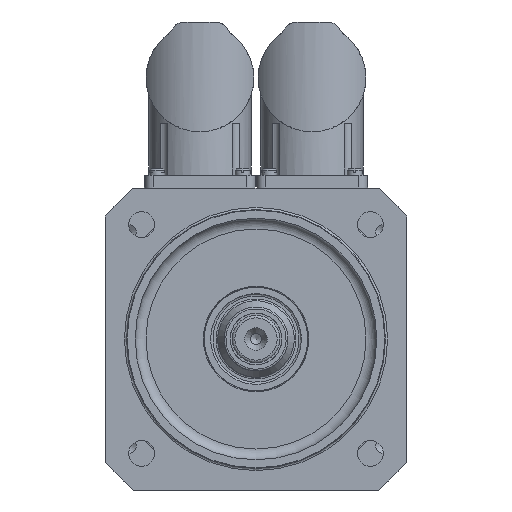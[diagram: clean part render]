
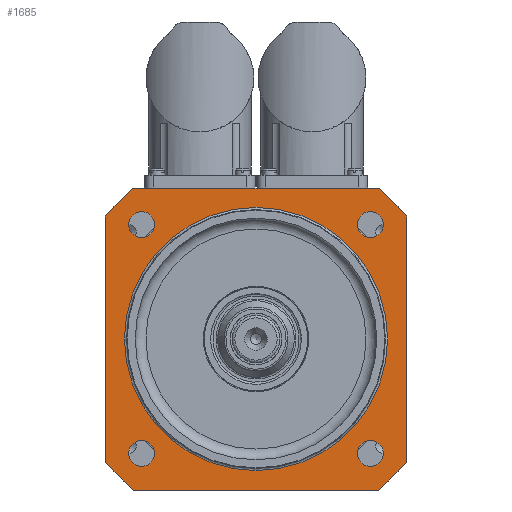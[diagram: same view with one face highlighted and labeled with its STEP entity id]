
A CAD part, front view. The second image highlights one B-rep face of the part: STEP entity #1685.
In plain terms, the highlighted planar face has unit normal (0, -1, 0).
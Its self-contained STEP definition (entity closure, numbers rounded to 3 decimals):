
#1685=ADVANCED_FACE('',(#4181,#2571,#4182,#4183,#4184,#4185),#2424,.T.);
#2424=PLANE('',#12778);
#2571=FACE_OUTER_BOUND('',#4754,.T.);
#3159=LINE('',#18094,#3671);
#3160=LINE('',#18098,#3672);
#3161=LINE('',#18102,#3673);
#3162=LINE('',#18106,#3674);
#3671=VECTOR('',#14417,1.);
#3672=VECTOR('',#14420,1.);
#3673=VECTOR('',#14423,1.);
#3674=VECTOR('',#14426,1.);
#4181=FACE_BOUND('',#4753,.T.);
#4182=FACE_BOUND('',#4755,.T.);
#4183=FACE_BOUND('',#4756,.T.);
#4184=FACE_BOUND('',#4757,.T.);
#4185=FACE_BOUND('',#4758,.T.);
#4753=EDGE_LOOP('',(#5919));
#4754=EDGE_LOOP('',(#5920,#5921,#5922,#5923,#5924,#5925,#5926,#5927));
#4755=EDGE_LOOP('',(#5928));
#4756=EDGE_LOOP('',(#5929));
#4757=EDGE_LOOP('',(#5930));
#4758=EDGE_LOOP('',(#5931));
#5919=ORIENTED_EDGE('',*,*,#10364,.T.);
#5920=ORIENTED_EDGE('',*,*,#10365,.T.);
#5921=ORIENTED_EDGE('',*,*,#10366,.T.);
#5922=ORIENTED_EDGE('',*,*,#10367,.T.);
#5923=ORIENTED_EDGE('',*,*,#10368,.T.);
#5924=ORIENTED_EDGE('',*,*,#10369,.T.);
#5925=ORIENTED_EDGE('',*,*,#10370,.T.);
#5926=ORIENTED_EDGE('',*,*,#10371,.T.);
#5927=ORIENTED_EDGE('',*,*,#10372,.F.);
#5928=ORIENTED_EDGE('',*,*,#10373,.T.);
#5929=ORIENTED_EDGE('',*,*,#10374,.T.);
#5930=ORIENTED_EDGE('',*,*,#10375,.T.);
#5931=ORIENTED_EDGE('',*,*,#10376,.T.);
#9145=VERTEX_POINT('',#18090);
#9146=VERTEX_POINT('',#18092);
#9147=VERTEX_POINT('',#18093);
#9148=VERTEX_POINT('',#18095);
#9149=VERTEX_POINT('',#18097);
#9150=VERTEX_POINT('',#18099);
#9151=VERTEX_POINT('',#18101);
#9152=VERTEX_POINT('',#18103);
#9153=VERTEX_POINT('',#18105);
#9154=VERTEX_POINT('',#18108);
#9155=VERTEX_POINT('',#18110);
#9156=VERTEX_POINT('',#18112);
#9157=VERTEX_POINT('',#18114);
#10364=EDGE_CURVE('',#9145,#9145,#11957,.T.);
#10365=EDGE_CURVE('',#9146,#9147,#11958,.T.);
#10366=EDGE_CURVE('',#9147,#9148,#3159,.T.);
#10367=EDGE_CURVE('',#9148,#9149,#11959,.T.);
#10368=EDGE_CURVE('',#9149,#9150,#3160,.T.);
#10369=EDGE_CURVE('',#9150,#9151,#11960,.T.);
#10370=EDGE_CURVE('',#9151,#9152,#3161,.T.);
#10371=EDGE_CURVE('',#9152,#9153,#11961,.T.);
#10372=EDGE_CURVE('',#9146,#9153,#3162,.T.);
#10373=EDGE_CURVE('',#9154,#9154,#11962,.T.);
#10374=EDGE_CURVE('',#9155,#9155,#11963,.T.);
#10375=EDGE_CURVE('',#9156,#9156,#11964,.T.);
#10376=EDGE_CURVE('',#9157,#9157,#11965,.T.);
#11957=CIRCLE('',#12769,30.5);
#11958=CIRCLE('',#12770,45.);
#11959=CIRCLE('',#12771,45.);
#11960=CIRCLE('',#12772,45.);
#11961=CIRCLE('',#12773,45.);
#11962=CIRCLE('',#12774,3.);
#11963=CIRCLE('',#12775,3.);
#11964=CIRCLE('',#12776,3.);
#11965=CIRCLE('',#12777,3.);
#12769=AXIS2_PLACEMENT_3D('',#18089,#14413,#14414);
#12770=AXIS2_PLACEMENT_3D('',#18091,#14415,#14416);
#12771=AXIS2_PLACEMENT_3D('',#18096,#14418,#14419);
#12772=AXIS2_PLACEMENT_3D('',#18100,#14421,#14422);
#12773=AXIS2_PLACEMENT_3D('',#18104,#14424,#14425);
#12774=AXIS2_PLACEMENT_3D('',#18107,#14427,#14428);
#12775=AXIS2_PLACEMENT_3D('',#18109,#14429,#14430);
#12776=AXIS2_PLACEMENT_3D('',#18111,#14431,#14432);
#12777=AXIS2_PLACEMENT_3D('',#18113,#14433,#14434);
#12778=AXIS2_PLACEMENT_3D('',#18115,#14435,#14436);
#14413=DIRECTION('',(0.,1.,0.));
#14414=DIRECTION('',(0.,0.,-1.));
#14415=DIRECTION('',(0.,-1.,0.));
#14416=DIRECTION('',(0.,0.,1.));
#14417=DIRECTION('',(1.,0.,0.));
#14418=DIRECTION('',(0.,-1.,0.));
#14419=DIRECTION('',(0.,0.,1.));
#14420=DIRECTION('',(0.,0.,1.));
#14421=DIRECTION('',(0.,-1.,0.));
#14422=DIRECTION('',(0.,0.,1.));
#14423=DIRECTION('',(-1.,0.,0.));
#14424=DIRECTION('',(0.,-1.,0.));
#14425=DIRECTION('',(0.,0.,1.));
#14426=DIRECTION('',(0.,0.,1.));
#14427=DIRECTION('',(0.,1.,0.));
#14428=DIRECTION('',(-1.,0.,0.));
#14429=DIRECTION('',(0.,1.,0.));
#14430=DIRECTION('',(0.,0.,-1.));
#14431=DIRECTION('',(0.,1.,0.));
#14432=DIRECTION('',(1.,0.,0.));
#14433=DIRECTION('',(0.,1.,0.));
#14434=DIRECTION('',(0.,0.,1.));
#14435=DIRECTION('',(0.,-1.,0.));
#14436=DIRECTION('',(0.,0.,-1.));
#18089=CARTESIAN_POINT('',(0.,-0.5,0.));
#18090=CARTESIAN_POINT('',(0.,-0.5,-30.5));
#18091=CARTESIAN_POINT('',(0.,-0.5,0.));
#18092=CARTESIAN_POINT('',(-35.,-0.5,-28.284));
#18093=CARTESIAN_POINT('',(-28.284,-0.5,-35.));
#18094=CARTESIAN_POINT('',(0.,-0.5,-35.));
#18095=CARTESIAN_POINT('',(28.284,-0.5,-35.));
#18096=CARTESIAN_POINT('',(0.,-0.5,0.));
#18097=CARTESIAN_POINT('',(35.,-0.5,-28.284));
#18098=CARTESIAN_POINT('',(35.,-0.5,-35.));
#18099=CARTESIAN_POINT('',(35.,-0.5,28.284));
#18100=CARTESIAN_POINT('',(0.,-0.5,0.));
#18101=CARTESIAN_POINT('',(28.284,-0.5,35.));
#18102=CARTESIAN_POINT('',(0.,-0.5,35.));
#18103=CARTESIAN_POINT('',(-28.284,-0.5,35.));
#18104=CARTESIAN_POINT('',(0.,-0.5,0.));
#18105=CARTESIAN_POINT('',(-35.,-0.5,28.284));
#18106=CARTESIAN_POINT('',(-35.,-0.5,-35.));
#18107=CARTESIAN_POINT('',(-26.517,-0.5,-26.517));
#18108=CARTESIAN_POINT('',(-29.517,-0.5,-26.517));
#18109=CARTESIAN_POINT('',(26.517,-0.5,-26.517));
#18110=CARTESIAN_POINT('',(26.517,-0.5,-29.517));
#18111=CARTESIAN_POINT('',(26.517,-0.5,26.517));
#18112=CARTESIAN_POINT('',(29.517,-0.5,26.517));
#18113=CARTESIAN_POINT('',(-26.517,-0.5,26.517));
#18114=CARTESIAN_POINT('',(-26.517,-0.5,29.517));
#18115=CARTESIAN_POINT('',(0.,-0.5,-35.));
